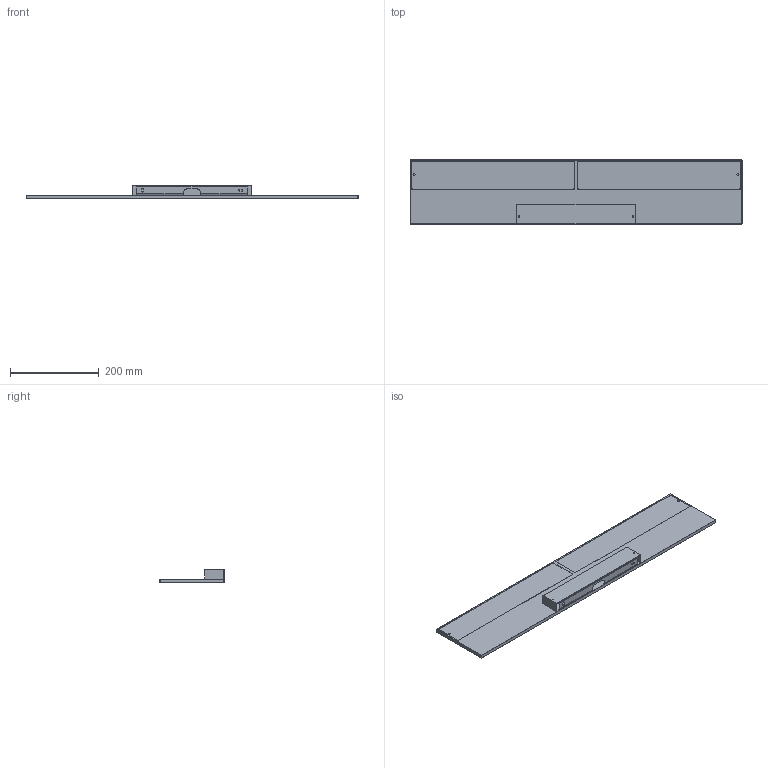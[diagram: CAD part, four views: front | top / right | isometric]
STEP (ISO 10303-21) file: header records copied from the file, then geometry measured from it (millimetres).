
FILE_DESCRIPTION((''),'2;1');
FILE_NAME('SOTTILE_750_OPALE','2025-05-13T14:20:22',('elena.baldelli'),(''),'CREO PARAMETRIC BY PTC INC, 2020354','CREO PARAMETRIC BY PTC INC, 2020354','');
FILE_SCHEMA(('CONFIG_CONTROL_DESIGN'));
Length unit declared in the file: millimetre
Products named in the file (1): SOTTILE_750_OPALE
Bounding box: 750 x 145 x 31.38 mm (x, y, z)
Surface area: 254630.5 mm2 (no closed solid volume)
Topology: 0 solids, 8 shells, 29 faces, 160 edges, 136 vertices
Faces by surface type: plane 24, cylinder 5
Entity records: 1742 total; most frequent: CARTESIAN_POINT 479, DIRECTION 248, ORIENTED_EDGE 192, EDGE_CURVE 160, VERTEX_POINT 136, VECTOR 114, LINE 114, AXIS2_PLACEMENT_3D 67
